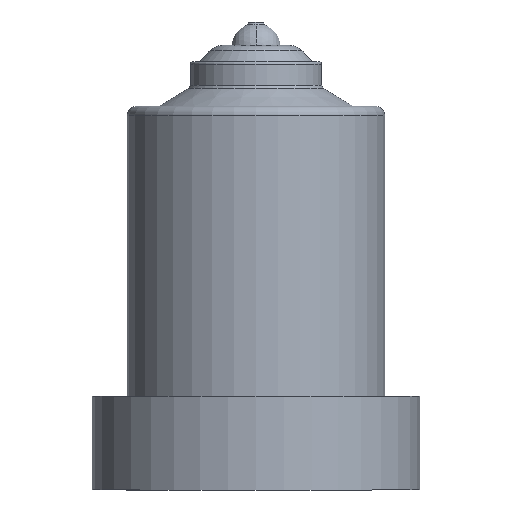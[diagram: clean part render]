
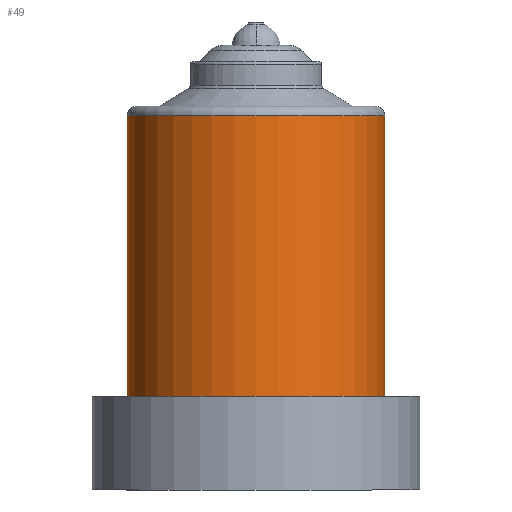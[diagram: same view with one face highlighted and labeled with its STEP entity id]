
A CAD part, front view. The second image highlights one B-rep face of the part: STEP entity #49.
In plain terms, the highlighted cylindrical face has radius 27.5 mm (diameter 55 mm), a partial arc.
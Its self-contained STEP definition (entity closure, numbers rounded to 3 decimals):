
#8 = DIRECTION ( 'NONE',  ( 0., 0., -1. ) ) ;
#16 = ORIENTED_EDGE ( 'NONE', *, *, #508, .T. ) ;
#49 = ADVANCED_FACE ( 'NONE', ( #726 ), #423, .T. ) ;
#69 = DIRECTION ( 'NONE',  ( 0., 0., -1. ) ) ;
#107 = CARTESIAN_POINT ( 'NONE',  ( -27.5, 0., 95. ) ) ;
#142 = DIRECTION ( 'NONE',  ( -1., 0., 0. ) ) ;
#150 = CARTESIAN_POINT ( 'NONE',  ( 0., 0., 88. ) ) ;
#180 = VECTOR ( 'NONE', #516, 1000. ) ;
#186 = EDGE_LOOP ( 'NONE', ( #194, #197, #16, #503 ) ) ;
#194 = ORIENTED_EDGE ( 'NONE', *, *, #355, .T. ) ;
#197 = ORIENTED_EDGE ( 'NONE', *, *, #433, .T. ) ;
#230 = DIRECTION ( 'NONE',  ( 1., 0., 0. ) ) ;
#235 = AXIS2_PLACEMENT_3D ( 'NONE', #388, #8, #142 ) ;
#281 = CARTESIAN_POINT ( 'NONE',  ( 27.5, 0., 35. ) ) ;
#303 = DIRECTION ( 'NONE',  ( -1., 0., 0. ) ) ;
#355 = EDGE_CURVE ( 'NONE', #670, #502, #661, .T. ) ;
#385 = LINE ( 'NONE', #781, #180 ) ;
#388 = CARTESIAN_POINT ( 'NONE',  ( 0., 0., 95. ) ) ;
#423 = CYLINDRICAL_SURFACE ( 'NONE', #827, 27.5 ) ;
#433 = EDGE_CURVE ( 'NONE', #502, #600, #668, .T. ) ;
#439 = VERTEX_POINT ( 'NONE', #281 ) ;
#458 = CIRCLE ( 'NONE', #595, 27.5 ) ;
#502 = VERTEX_POINT ( 'NONE', #107 ) ;
#503 = ORIENTED_EDGE ( 'NONE', *, *, #850, .F. ) ;
#508 = EDGE_CURVE ( 'NONE', #600, #439, #458, .T. ) ;
#516 = DIRECTION ( 'NONE',  ( 0., 0., -1. ) ) ;
#587 = VECTOR ( 'NONE', #69, 1000. ) ;
#595 = AXIS2_PLACEMENT_3D ( 'NONE', #791, #711, #303 ) ;
#600 = VERTEX_POINT ( 'NONE', #776 ) ;
#641 = DIRECTION ( 'NONE',  ( 0., 0., -1. ) ) ;
#661 = CIRCLE ( 'NONE', #235, 27.5 ) ;
#668 = LINE ( 'NONE', #673, #587 ) ;
#670 = VERTEX_POINT ( 'NONE', #766 ) ;
#673 = CARTESIAN_POINT ( 'NONE',  ( -27.5, 0., 88. ) ) ;
#711 = DIRECTION ( 'NONE',  ( 0., 0., 1. ) ) ;
#726 = FACE_OUTER_BOUND ( 'NONE', #186, .T. ) ;
#766 = CARTESIAN_POINT ( 'NONE',  ( 27.5, 0., 95. ) ) ;
#776 = CARTESIAN_POINT ( 'NONE',  ( -27.5, 0., 35. ) ) ;
#781 = CARTESIAN_POINT ( 'NONE',  ( 27.5, 0., 88. ) ) ;
#791 = CARTESIAN_POINT ( 'NONE',  ( 0., 0., 35. ) ) ;
#827 = AXIS2_PLACEMENT_3D ( 'NONE', #150, #641, #230 ) ;
#850 = EDGE_CURVE ( 'NONE', #670, #439, #385, .T. ) ;
